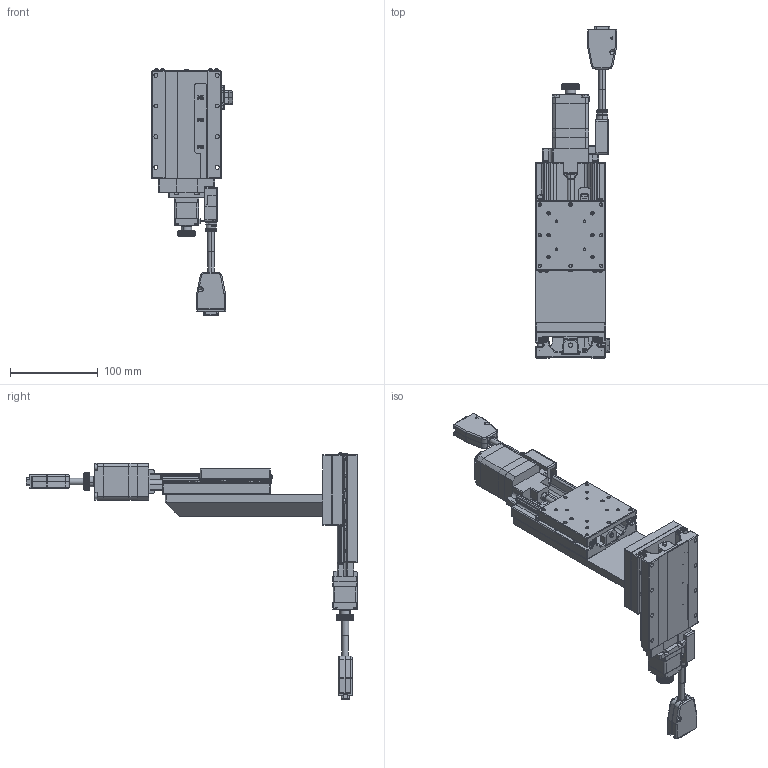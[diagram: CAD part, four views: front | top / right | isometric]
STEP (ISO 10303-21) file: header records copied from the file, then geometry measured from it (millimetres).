
FILE_DESCRIPTION (( 'STEP AP203' ), '1' );
FILE_NAME ('CXZS8050-S_defeature.STEP', '2022-11-16T07:06:25', ( '' ), ( '' ), 'SwSTEP 2.0', 'SolidWorks 2019', '' );
FILE_SCHEMA (( 'CONFIG_CONTROL_DESIGN' ));
Length unit declared in the file: millimetre
Products named in the file (4): Group3^CXZS8050-S_defeature_GMT; Group1^CXZS8050-S_defeature_GMT; Group2^CXZS8050-S_defeature_GMT; CXZS8050-S_defeature
Assembly tree (3 placements, depth 2):
  CXZS8050-S_defeature
    Group1^CXZS8050-S_defeature_GMT
    Group2^CXZS8050-S_defeature_GMT
    Group3^CXZS8050-S_defeature_GMT
Bounding box: 92.5 x 378.79 x 281.2 mm (x, y, z)
Volume: 914800.6 mm3; surface area: 208987.8 mm2
Topology: 8 solids, 8 shells, 4832 faces, 12860 edges, 8153 vertices
Faces by surface type: plane 2578, cylinder 1226, torus 392, bspline 300, cone 264, sphere 72
Entity records: 166518 total; most frequent: CARTESIAN_POINT 48853, ORIENTED_EDGE 25544, DIRECTION 23278, EDGE_CURVE 12772, AXIS2_PLACEMENT_3D 8218, VERTEX_POINT 8153, LINE 6842, VECTOR 6842
